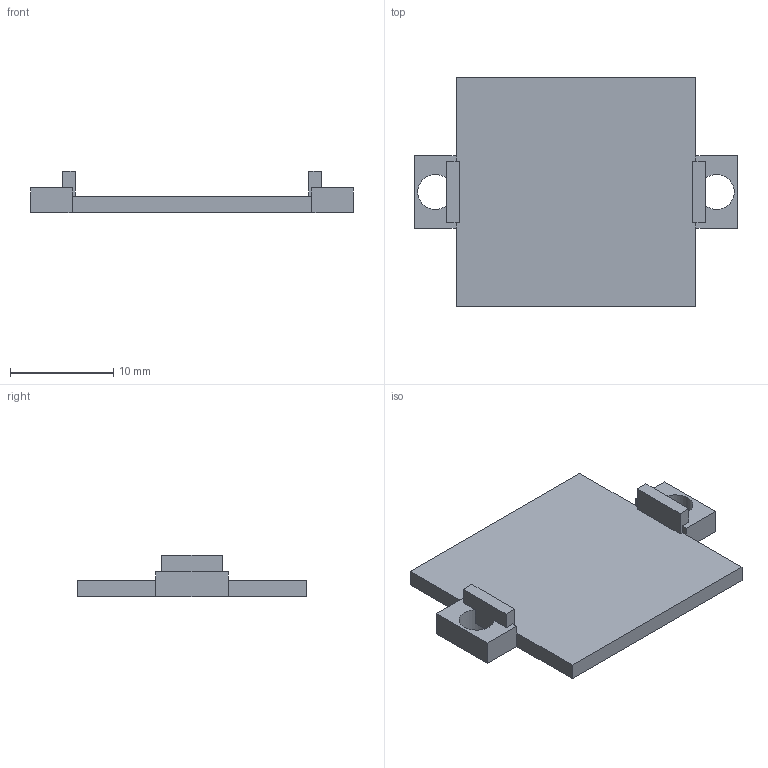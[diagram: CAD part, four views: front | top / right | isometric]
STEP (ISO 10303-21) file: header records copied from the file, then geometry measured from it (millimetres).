
FILE_DESCRIPTION(('FreeCAD Model'),'2;1');
FILE_NAME('Open CASCADE Shape Model','2026-11-20T08:25:38',('FreeCAD'),( 'FreeCAD'),'Open CASCADE STEP processor 7.8','FreeCAD','Unknown');
FILE_SCHEMA(('AUTOMOTIVE_DESIGN { 1 0 10303 214 1 1 1 1 }'));
Length unit declared in the file: millimetre
Products named in the file (1): Open CASCADE STEP translator 7.8 58
Bounding box: 31.2 x 22.2 x 4 mm (x, y, z)
Volume: 943.7 mm3; surface area: 1412.6 mm2
Topology: 1 solids, 1 shells, 34 faces, 98 edges, 64 vertices
Faces by surface type: plane 32, cylinder 2
Full cylindrical faces by diameter (mm): 3.4 x2
Entity records: 1116 total; most frequent: CARTESIAN_POINT 197, ORIENTED_EDGE 196, DIRECTION 176, EDGE_CURVE 98, LINE 90, VECTOR 90, VERTEX_POINT 64, AXIS2_PLACEMENT_3D 43
